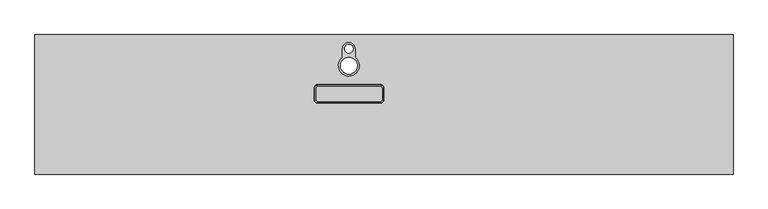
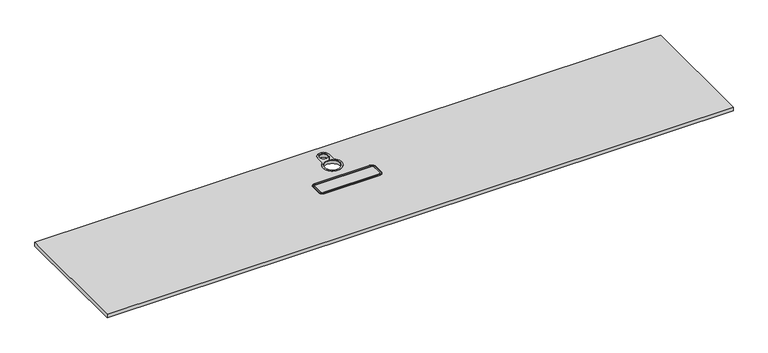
"""IFC4 building model written with IfcOpenShell, lengths in millimetres: furniture geometry, Geiger_GeigerOneCasegoods_CredenzaTopLowHeightWithLegandShro : Veneer 120Wx 24Dx 0.75H."""

from ifc_helpers import new_model, si_unit, point, frame, frame_2d, origin, origin_with_axes, place, context, project, spatial, polyline, circle_curve, ellipse_curve, trimmed, segment, composite_curve, outline, extrude, source, transform, mapped, element, save
from ifc_brep_helpers import plane_surface, cylinder_surface, revolved_surface, advanced_brep


def furniture_3d431983(model_context):
    return source(origin(), model_context, "Body", "SolidModel", [
        extrude(outline(composite_curve([segment(polyline([(1507.88, -291.0), (1235.12, -291.0)]), True, "CONTINUOUS"), segment(trimmed(circle_curve(frame_2d((1235.12, -283.38)), 7.62), [point((1235.12, -291.0))], [point((1227.5, -283.38))], False, "CARTESIAN"), True, "CONTINUOUS"), segment(polyline([(1227.5, -283.38), (1227.5, -233.62)]), True, "CONTINUOUS"), segment(trimmed(circle_curve(frame_2d((1235.12, -233.62)), 7.62), [point((1227.5, -233.62))], [point((1235.12, -226.0))], False, "CARTESIAN"), True, "CONTINUOUS"), segment(polyline([(1235.12, -226.0), (1507.88, -226.0)]), True, "CONTINUOUS"), segment(trimmed(circle_curve(frame_2d((1507.88, -233.62)), 7.62), [point((1507.88, -226.0))], [point((1515.5, -233.62))], False, "CARTESIAN"), True, "CONTINUOUS"), segment(polyline([(1515.5, -233.62), (1515.5, -283.38)]), True, "CONTINUOUS"), segment(trimmed(circle_curve(frame_2d((1507.88, -283.38)), 7.62), [point((1515.5, -283.38))], [point((1507.88, -291.0))], False, "CARTESIAN"), True, "CONTINUOUS")], self_intersect=False)), frame((0.0, 0.0, 18.6723246), z_axis=(0.0, 0.0, 1.0), x_axis=(1.0, 0.0, 0.0)), (0.0, 0.0, 1.0), 0.6779842),
        advanced_brep(
        [(1227.5, -283.38, 20.5), (1235.12, -291.0, 20.5), (1235.12, -291.0, 18.6723246), (1227.5, -283.38, 18.6723246), (1219.0, -283.38, 19.5148239), (1235.12, -299.5, 19.5148239), (1235.12, -298.5148239, 20.5), (1219.9851761, -283.38, 20.5), (1219.0, -283.38, 18.6723246), (1235.12, -299.5, 18.6723246), (1227.5, -233.62, 18.6723246), (1227.5, -233.62, 20.5), (1219.9851761, -233.62, 20.5), (1219.0, -233.62, 19.5148239), (1219.0, -233.62, 18.6723246), (1235.12, -226.0, 20.5), (1235.12, -226.0, 18.6723246), (1235.12, -217.5, 19.5148239), (1235.12, -218.4851761, 20.5), (1235.12, -217.5, 18.6723246), (1507.88, -226.0, 18.6723246), (1507.88, -226.0, 20.5), (1507.88, -218.4851761, 20.5), (1507.88, -217.5, 19.5148239), (1507.88, -217.5, 18.6723246), (1515.5, -233.62, 20.5), (1515.5, -233.62, 18.6723246), (1524.0, -233.62, 19.5148239), (1523.0148239, -233.62, 20.5), (1524.0, -233.62, 18.6723246), (1515.5, -283.38, 18.6723246), (1515.5, -283.38, 20.5), (1523.0148239, -283.38, 20.5), (1524.0, -283.38, 19.5148239), (1524.0, -283.38, 18.6723246), (1507.88, -291.0, 20.5), (1507.88, -291.0, 18.6723246), (1507.88, -299.5, 19.5148239), (1507.88, -298.5148239, 20.5), (1507.88, -299.5, 18.6723246)],
        [
            (0, 1, circle_curve(frame((1235.12, -283.38, 20.5), z_axis=(0.0, 0.0, 1.0), x_axis=(0.0, -1.0, 0.0)), 7.62)),
            (1, 2),
            (2, 3, circle_curve(frame((1235.12, -283.38, 18.6723246), z_axis=(0.0, 0.0, -1.0), x_axis=(0.0, -1.0, 0.0)), 7.62)),
            (3, 0),
            (4, 5, circle_curve(frame((1235.12, -283.38, 19.5148239), z_axis=(0.0, 0.0, 1.0), x_axis=(0.0, -1.0, 0.0)), 16.12)),
            (5, 6, circle_curve(frame((1235.12, -298.5148239, 19.5148239), z_axis=(-1.0, 0.0, 0.0), x_axis=(0.0, -1.0, 0.0)), 0.9851761)),
            (6, 7, circle_curve(frame((1235.12, -283.38, 20.5), z_axis=(0.0, 0.0, -1.0), x_axis=(0.0, -1.0, 0.0)), 15.1348239)),
            (7, 4, circle_curve(frame((1219.9851761, -283.38, 19.5148239), z_axis=(0.0, -1.0, 0.0), x_axis=(-1.0, 0.0, 0.0)), 0.9851761)),
            (8, 9, circle_curve(frame((1235.12, -283.38, 18.6723246), z_axis=(0.0, 0.0, 1.0), x_axis=(0.0, -1.0, 0.0)), 16.12)),
            (9, 5),
            (4, 8),
            (3, 10),
            (10, 11),
            (11, 0),
            (7, 12),
            (12, 13, circle_curve(frame((1219.9851761, -233.62, 19.5148239), z_axis=(0.0, -1.0, 0.0), x_axis=(-1.0, 0.0, 0.0)), 0.9851761)),
            (13, 4),
            (13, 14),
            (14, 8),
            (15, 11, circle_curve(frame((1235.12, -233.62, 20.5), z_axis=(0.0, 0.0, 1.0), x_axis=(-1.0, 0.0, 0.0)), 7.62)),
            (10, 16, circle_curve(frame((1235.12, -233.62, 18.6723246), z_axis=(0.0, 0.0, -1.0), x_axis=(-1.0, 0.0, 0.0)), 7.62)),
            (16, 15),
            (17, 13, circle_curve(frame((1235.12, -233.62, 19.5148239), z_axis=(0.0, 0.0, 1.0), x_axis=(-1.0, 0.0, 0.0)), 16.12)),
            (12, 18, circle_curve(frame((1235.12, -233.62, 20.5), z_axis=(0.0, 0.0, -1.0), x_axis=(-1.0, 0.0, 0.0)), 15.1348239)),
            (18, 17, circle_curve(frame((1235.12, -218.4851761, 19.5148239), z_axis=(-1.0, 0.0, 0.0), x_axis=(0.0, 1.0, 0.0)), 0.9851761)),
            (19, 14, circle_curve(frame((1235.12, -233.62, 18.6723246), z_axis=(0.0, 0.0, 1.0), x_axis=(-1.0, 0.0, 0.0)), 16.12)),
            (17, 19),
            (16, 20),
            (20, 21),
            (21, 15),
            (18, 22),
            (22, 23, circle_curve(frame((1507.88, -218.4851761, 19.5148239), z_axis=(-1.0, 0.0, 0.0), x_axis=(0.0, 1.0, 0.0)), 0.9851761)),
            (23, 17),
            (23, 24),
            (24, 19),
            (25, 21, circle_curve(frame((1507.88, -233.62, 20.5), z_axis=(0.0, 0.0, 1.0), x_axis=(0.0, 1.0, 0.0)), 7.62)),
            (20, 26, circle_curve(frame((1507.88, -233.62, 18.6723246), z_axis=(0.0, 0.0, -1.0), x_axis=(0.0, 1.0, 0.0)), 7.62)),
            (26, 25),
            (27, 23, circle_curve(frame((1507.88, -233.62, 19.5148239), z_axis=(0.0, 0.0, 1.0), x_axis=(0.0, 1.0, 0.0)), 16.12)),
            (22, 28, circle_curve(frame((1507.88, -233.62, 20.5), z_axis=(0.0, 0.0, -1.0), x_axis=(0.0, 1.0, 0.0)), 15.1348239)),
            (28, 27, circle_curve(frame((1523.0148239, -233.62, 19.5148239), z_axis=(0.0, 1.0, 0.0), x_axis=(1.0, 0.0, 0.0)), 0.9851761)),
            (29, 24, circle_curve(frame((1507.88, -233.62, 18.6723246), z_axis=(0.0, 0.0, 1.0), x_axis=(0.0, 1.0, 0.0)), 16.12)),
            (27, 29),
            (26, 30),
            (30, 31),
            (31, 25),
            (28, 32),
            (32, 33, circle_curve(frame((1523.0148239, -283.38, 19.5148239), z_axis=(0.0, 1.0, 0.0), x_axis=(1.0, 0.0, 0.0)), 0.9851761)),
            (33, 27),
            (33, 34),
            (34, 29),
            (35, 31, circle_curve(frame((1507.88, -283.38, 20.5), z_axis=(0.0, 0.0, 1.0), x_axis=(1.0, 0.0, 0.0)), 7.62)),
            (30, 36, circle_curve(frame((1507.88, -283.38, 18.6723246), z_axis=(0.0, 0.0, -1.0), x_axis=(1.0, 0.0, 0.0)), 7.62)),
            (36, 35),
            (37, 33, circle_curve(frame((1507.88, -283.38, 19.5148239), z_axis=(0.0, 0.0, 1.0), x_axis=(1.0, 0.0, 0.0)), 16.12)),
            (32, 38, circle_curve(frame((1507.88, -283.38, 20.5), z_axis=(0.0, 0.0, -1.0), x_axis=(1.0, 0.0, 0.0)), 15.1348239)),
            (38, 37, circle_curve(frame((1507.88, -298.5148239, 19.5148239), z_axis=(1.0, 0.0, 0.0), x_axis=(0.0, -1.0, 0.0)), 0.9851761)),
            (39, 34, circle_curve(frame((1507.88, -283.38, 18.6723246), z_axis=(0.0, 0.0, 1.0), x_axis=(1.0, 0.0, 0.0)), 16.12)),
            (37, 39),
            (36, 2),
            (1, 35),
            (6, 38),
            (5, 37),
            (9, 39),
        ],
        [
            revolved_surface(polyline([(1235.12, -291.0, 18.6723246), (1235.12, -291.0, 20.5)]), (1235.12, -283.38, 19.05), (0.0, 0.0, -1.0)),
            revolved_surface(trimmed(ellipse_curve(frame((1235.12, -298.5148239, 19.5148239), z_axis=(1.0, 0.0, 0.0), x_axis=(0.0, -1.0, 0.0)), 0.9851761, 0.9851761), [point((1235.12, -298.5148239, 20.5))], [point((1235.12, -299.5, 19.5148239))], True, "CARTESIAN"), (1235.12, -283.38, 19.05), (0.0, 0.0, -1.0)),
            cylinder_surface(frame((1235.12, -283.38, 19.05), z_axis=(0.0, 0.0, -1.0), x_axis=(0.0, -1.0, 0.0)), 16.12),
            plane_surface(frame((1227.5, -283.38, 18.6723246), z_axis=(1.0, 0.0, 0.0), x_axis=(0.0, 1.0, 0.0))),
            cylinder_surface(frame((1219.9851761, -283.38, 19.5148239), z_axis=(0.0, -1.0, 0.0), x_axis=(-1.0, 0.0, 0.0)), 0.9851761),
            plane_surface(frame((1219.0, -283.38, 19.5148239), z_axis=(-1.0, 0.0, 0.0), x_axis=(0.0, 1.0, 0.0))),
            revolved_surface(polyline([(1227.5, -233.62, 18.6723246), (1227.5, -233.62, 20.5)]), (1235.12, -233.62, 19.05), (0.0, 0.0, -1.0)),
            revolved_surface(trimmed(ellipse_curve(frame((1219.9851761, -233.62, 19.5148239), z_axis=(0.0, -1.0, 0.0), x_axis=(-1.0, 0.0, 0.0)), 0.9851761, 0.9851761), [point((1219.9851761, -233.62, 20.5))], [point((1219.0, -233.62, 19.5148239))], True, "CARTESIAN"), (1235.12, -233.62, 19.05), (0.0, 0.0, -1.0)),
            cylinder_surface(frame((1235.12, -233.62, 19.05), z_axis=(0.0, 0.0, -1.0), x_axis=(-1.0, 0.0, 0.0)), 16.12),
            plane_surface(frame((1235.12, -226.0, 18.6723246), z_axis=(0.0, -1.0, 0.0), x_axis=(1.0, 0.0, 0.0))),
            cylinder_surface(frame((1235.12, -218.4851761, 19.5148239), z_axis=(-1.0, 0.0, 0.0), x_axis=(0.0, 1.0, 0.0)), 0.9851761),
            plane_surface(frame((1235.12, -217.5, 19.5148239), z_axis=(0.0, 1.0, 0.0), x_axis=(1.0, 0.0, 0.0))),
            revolved_surface(polyline([(1507.88, -226.0, 18.6723246), (1507.88, -226.0, 20.5)]), (1507.88, -233.62, 19.05), (0.0, 0.0, -1.0)),
            revolved_surface(trimmed(ellipse_curve(frame((1507.88, -218.4851761, 19.5148239), z_axis=(-1.0, 0.0, 0.0), x_axis=(0.0, 1.0, 0.0)), 0.9851761, 0.9851761), [point((1507.88, -218.4851761, 20.5))], [point((1507.88, -217.5, 19.5148239))], True, "CARTESIAN"), (1507.88, -233.62, 19.05), (0.0, 0.0, -1.0)),
            cylinder_surface(frame((1507.88, -233.62, 19.05), z_axis=(0.0, 0.0, -1.0), x_axis=(0.0, 1.0, 0.0)), 16.12),
            plane_surface(frame((1515.5, -233.62, 18.6723246), z_axis=(-1.0, 0.0, 0.0), x_axis=(0.0, -1.0, 0.0))),
            cylinder_surface(frame((1523.0148239, -233.62, 19.5148239), z_axis=(0.0, 1.0, 0.0), x_axis=(1.0, 0.0, 0.0)), 0.9851761),
            plane_surface(frame((1524.0, -233.62, 19.5148239), z_axis=(1.0, 0.0, 0.0), x_axis=(0.0, -1.0, 0.0))),
            revolved_surface(polyline([(1515.5, -283.38, 18.6723246), (1515.5, -283.38, 20.5)]), (1507.88, -283.38, 19.05), (0.0, 0.0, -1.0)),
            revolved_surface(trimmed(ellipse_curve(frame((1523.0148239, -283.38, 19.5148239), z_axis=(0.0, 1.0, 0.0), x_axis=(1.0, 0.0, 0.0)), 0.9851761, 0.9851761), [point((1523.0148239, -283.38, 20.5))], [point((1524.0, -283.38, 19.5148239))], True, "CARTESIAN"), (1507.88, -283.38, 19.05), (0.0, 0.0, -1.0)),
            cylinder_surface(frame((1507.88, -283.38, 19.05), z_axis=(0.0, 0.0, -1.0), x_axis=(1.0, 0.0, 0.0)), 16.12),
            plane_surface(frame((1507.88, -291.0, 18.6723246), z_axis=(0.0, 1.0, 0.0), x_axis=(-1.0, 0.0, 0.0))),
            plane_surface(frame((1507.88, -291.0, 20.5), z_axis=(0.0, 0.0, 1.0), x_axis=(-1.0, 0.0, 0.0))),
            cylinder_surface(frame((1507.88, -298.5148239, 19.5148239), z_axis=(1.0, 0.0, 0.0), x_axis=(0.0, -1.0, 0.0)), 0.9851761),
            plane_surface(frame((1507.88, -299.5, 19.5148239), z_axis=(0.0, -1.0, 0.0), x_axis=(-1.0, 0.0, 0.0))),
            plane_surface(frame((1507.88, -299.5, 18.6723246), z_axis=(0.0, 0.0, -1.0), x_axis=(-1.0, 0.0, 0.0))),
        ],
        [
            (0, [[1, 2, 3, 4]]),
            (1, [[5, 6, 7, 8]]),
            (2, [[9, 10, -5, 11]]),
            (3, [[-4, 12, 13, 14]]),
            (4, [[-8, 15, 16, 17]]),
            (5, [[-11, -17, 18, 19]]),
            (6, [[20, -13, 21, 22]]),
            (7, [[23, -16, 24, 25]]),
            (8, [[26, -18, -23, 27]]),
            (9, [[-22, 28, 29, 30]]),
            (10, [[-25, 31, 32, 33]]),
            (11, [[-27, -33, 34, 35]]),
            (12, [[36, -29, 37, 38]]),
            (13, [[39, -32, 40, 41]]),
            (14, [[42, -34, -39, 43]]),
            (15, [[-38, 44, 45, 46]]),
            (16, [[-41, 47, 48, 49]]),
            (17, [[-43, -49, 50, 51]]),
            (18, [[52, -45, 53, 54]]),
            (19, [[55, -48, 56, 57]]),
            (20, [[58, -50, -55, 59]]),
            (21, [[-54, 60, -2, 61]]),
            (22, [[62, -56, -47, -40, -31, -24, -15, -7], [-46, -52, -61, -1, -14, -20, -30, -36]]),
            (23, [[-57, -62, -6, 63]]),
            (24, [[-59, -63, -10, 64]]),
            (25, [[-51, -58, -64, -9, -19, -26, -35, -42], [-60, -53, -44, -37, -28, -21, -12, -3]]),
        ],
    ),
        extrude(outline(polyline([(3048.0, 0.0), (3048.0, -609.6), (0.0, -609.6), (0.0, 0.0), (3048.0, 0.0)]), holes=[composite_curve([segment(trimmed(circle_curve(frame_2d((1370.5, -61.000002)), 23.1477449), [point((1347.3522551, -61.000002))], [point((1393.6477449, -61.000002))], True, "CARTESIAN"), True, "CONTINUOUS"), segment(trimmed(circle_curve(frame_2d((1370.5, -61.000002)), 23.1477449), [point((1393.6477449, -61.000002))], [point((1347.3522551, -61.000002))], True, "CARTESIAN"), True, "CONTINUOUS")], self_intersect=False), composite_curve([segment(trimmed(circle_curve(frame_2d((1370.5, -135.0057226)), 40.382326), [point((1330.117674, -135.0057226))], [point((1410.882326, -135.0057226))], True, "CARTESIAN"), True, "CONTINUOUS"), segment(trimmed(circle_curve(frame_2d((1370.5, -135.0057226)), 40.382326), [point((1410.882326, -135.0057226))], [point((1330.117674, -135.0057226))], True, "CARTESIAN"), True, "CONTINUOUS")], self_intersect=False)]), origin_with_axes(), (0.0, 0.0, 1.0), 19.05),
        extrude(outline(composite_curve([segment(trimmed(circle_curve(frame_2d((1370.0337167, -60.9055219)), 27.5), [point((1342.5337167, -60.9055219))], [point((1397.5337167, -60.9055219))], False, "CARTESIAN"), True, "CONTINUOUS"), segment(polyline([(1397.5337167, -60.9055219), (1397.5337167, -98.6677415)]), True, "CONTINUOUS"), segment(trimmed(circle_curve(frame_2d((1370.5, -135.0057226)), 45.2909561), [point((1397.5337167, -98.6677415))], [point((1342.5337167, -99.3804829))], False, "CARTESIAN"), True, "CONTINUOUS"), segment(polyline([(1342.5337167, -99.3804829), (1342.5337167, -60.9055219)]), True, "CONTINUOUS")], self_intersect=False), holes=[composite_curve([segment(trimmed(circle_curve(frame_2d((1370.5, -61.000002)), 18.9999985), [point((1370.5, -42.0000035))], [point((1370.5, -80.0000005))], True, "CARTESIAN"), True, "CONTINUOUS"), segment(trimmed(circle_curve(frame_2d((1370.5, -61.000002)), 18.9999985), [point((1370.5, -80.0000005))], [point((1370.5, -42.0000035))], True, "CARTESIAN"), True, "CONTINUOUS")], self_intersect=False), composite_curve([segment(trimmed(circle_curve(frame_2d((1370.5, -135.0057226)), 36.4999999), [point((1370.5, -98.5057227))], [point((1370.5, -171.5057224))], True, "CARTESIAN"), True, "CONTINUOUS"), segment(trimmed(circle_curve(frame_2d((1370.5, -135.0057226)), 36.4999999), [point((1370.5, -171.5057224))], [point((1370.5, -98.5057227))], True, "CARTESIAN"), True, "CONTINUOUS")], self_intersect=False)]), frame((0.0, 0.0, 19.05), z_axis=(0.0, 0.0, 1.0), x_axis=(1.0, 0.0, 0.0)), (0.0, 0.0, 1.0), 1.55),
    ])


if __name__ == "__main__":
    model = new_model("IFC4")
    model_context = context("Model", 3, world=origin())
    ifc_project = project(units=[si_unit("LENGTHUNIT", "METRE", prefix="MILLI")], contexts=[model_context])
    site = spatial("IfcSite", under=ifc_project)
    building = spatial("IfcBuilding", under=site)
    placement = place(None, origin())
    furniture_shape = furniture_3d431983(model_context)
    element("IfcFurniture", 1, ObjectType="Geiger_GeigerOneCasegoods_CredenzaTopLowHeightWithLegandShro : Veneer 120Wx 24Dx 0.75H", at=placement, inside=building, context=model_context, shape_type="MappedRepresentation", body=[
        mapped(furniture_shape, transform((0.0, 0.0, 0.0), x_axis=(1.0, 0.0, 0.0), y_axis=(0.0, 1.0, 0.0), z_axis=(0.0, 0.0, 1.0))),
    ])
    save(model, "model.ifc")
